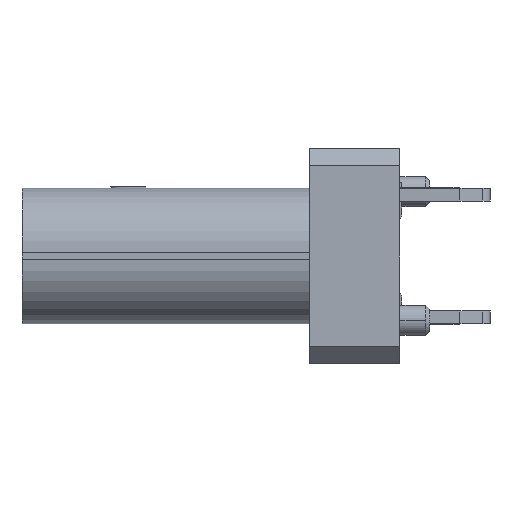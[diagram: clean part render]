
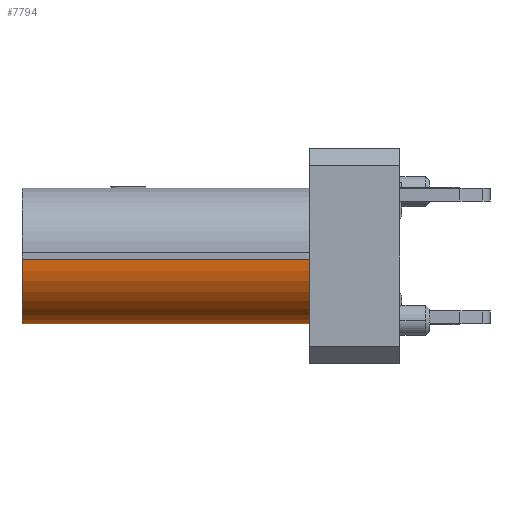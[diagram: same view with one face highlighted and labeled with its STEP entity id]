
A CAD part, left-side view. The second image highlights one B-rep face of the part: STEP entity #7794.
In plain terms, the highlighted cylindrical face has radius 1.5 mm (diameter 3 mm), a partial arc.
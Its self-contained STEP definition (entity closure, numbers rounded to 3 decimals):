
#115 = LINE ( 'NONE', #3281, #16185 ) ;
#473 = CARTESIAN_POINT ( 'NONE',  ( 170.205, -21.994, -1.66 ) ) ;
#832 = ORIENTED_EDGE ( 'NONE', *, *, #5927, .T. ) ;
#1283 = ORIENTED_EDGE ( 'NONE', *, *, #15271, .F. ) ;
#1311 = CARTESIAN_POINT ( 'NONE',  ( 171.705, -15.294, -3.16 ) ) ;
#1465 = DIRECTION ( 'NONE',  ( 0., 1., 0. ) ) ;
#1746 = DIRECTION ( 'NONE',  ( 0., 1., 0. ) ) ;
#1748 = EDGE_CURVE ( 'NONE', #9031, #2268, #2257, .T. ) ;
#2257 = LINE ( 'NONE', #11278, #13307 ) ;
#2268 = VERTEX_POINT ( 'NONE', #473 ) ;
#3281 = CARTESIAN_POINT ( 'NONE',  ( 171.705, -21.994, -3.16 ) ) ;
#4100 = VERTEX_POINT ( 'NONE', #1311 ) ;
#4145 = CYLINDRICAL_SURFACE ( 'NONE', #9135, 1.5 ) ;
#4240 = CARTESIAN_POINT ( 'NONE',  ( 170.205, -15.294, -1.66 ) ) ;
#4569 = VERTEX_POINT ( 'NONE', #9742 ) ;
#5271 = ORIENTED_EDGE ( 'NONE', *, *, #1748, .F. ) ;
#5927 = EDGE_CURVE ( 'NONE', #4569, #2268, #17527, .T. ) ;
#7323 = DIRECTION ( 'NONE',  ( 0., 0., -1. ) ) ;
#7545 = EDGE_CURVE ( 'NONE', #4569, #4100, #115, .T. ) ;
#7794 = ADVANCED_FACE ( 'NONE', ( #8648 ), #4145, .T. ) ;
#8648 = FACE_OUTER_BOUND ( 'NONE', #10537, .T. ) ;
#9031 = VERTEX_POINT ( 'NONE', #4240 ) ;
#9135 = AXIS2_PLACEMENT_3D ( 'NONE', #15761, #10278, #9996 ) ;
#9742 = CARTESIAN_POINT ( 'NONE',  ( 171.705, -21.994, -3.16 ) ) ;
#9996 = DIRECTION ( 'NONE',  ( -1., 0., 0. ) ) ;
#10127 = CARTESIAN_POINT ( 'NONE',  ( 171.705, -21.994, -1.66 ) ) ;
#10278 = DIRECTION ( 'NONE',  ( 0., -1., 0. ) ) ;
#10537 = EDGE_LOOP ( 'NONE', ( #1283, #15923, #832, #5271 ) ) ;
#10930 = CIRCLE ( 'NONE', #13364, 1.5 ) ;
#11278 = CARTESIAN_POINT ( 'NONE',  ( 170.205, -14.094, -1.66 ) ) ;
#12907 = DIRECTION ( 'NONE',  ( 0., -1., 0. ) ) ;
#13307 = VECTOR ( 'NONE', #12907, 1000. ) ;
#13364 = AXIS2_PLACEMENT_3D ( 'NONE', #16249, #1465, #7323 ) ;
#14370 = DIRECTION ( 'NONE',  ( 0., 0., -1. ) ) ;
#14549 = DIRECTION ( 'NONE',  ( 0., 1., 0. ) ) ;
#15271 = EDGE_CURVE ( 'NONE', #4100, #9031, #10930, .T. ) ;
#15386 = AXIS2_PLACEMENT_3D ( 'NONE', #10127, #14549, #14370 ) ;
#15761 = CARTESIAN_POINT ( 'NONE',  ( 171.705, -6.994, -1.66 ) ) ;
#15923 = ORIENTED_EDGE ( 'NONE', *, *, #7545, .F. ) ;
#16185 = VECTOR ( 'NONE', #1746, 1000. ) ;
#16249 = CARTESIAN_POINT ( 'NONE',  ( 171.705, -15.294, -1.66 ) ) ;
#17527 = CIRCLE ( 'NONE', #15386, 1.5 ) ;
